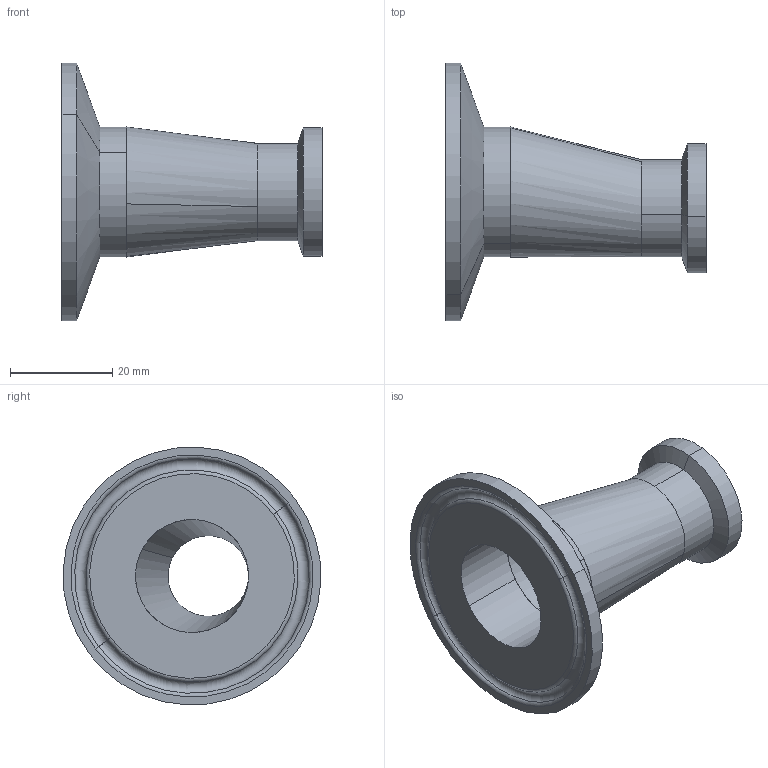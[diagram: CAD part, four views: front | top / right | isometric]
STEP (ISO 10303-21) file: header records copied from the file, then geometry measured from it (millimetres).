
FILE_DESCRIPTION (( 'STEP AP203' ), '1' );
FILE_NAME ('EG32CC1.0X.75.STEP', '2021-10-05T18:34:04', ( '' ), ( '' ), 'SwSTEP 2.0', 'SolidWorks 2021', '' );
FILE_SCHEMA (( 'CONFIG_CONTROL_DESIGN' ));
Length unit declared in the file: inch
Products named in the file (4): EG32CC1.0X.75; EG2CS1.0; E32WW1.0X.75; EG2CS.75
Assembly tree (3 placements, depth 2):
  EG32CC1.0X.75
    E32WW1.0X.75
    EG2CS1.0
    EG2CS.75
Bounding box: 50.8 x 50.33 x 50.33 mm (x, y, z)
Volume: 12932.1 mm3; surface area: 10876 mm2
Topology: 3 solids, 3 shells, 40 faces, 80 edges, 48 vertices
Faces by surface type: cylinder 14, plane 8, torus 8, cone 6, bspline 4
Entity records: 1994 total; most frequent: CARTESIAN_POINT 702, DIRECTION 216, ORIENTED_EDGE 160, AXIS2_PLACEMENT_3D 98, EDGE_CURVE 80, CIRCLE 56, VERTEX_POINT 48, EDGE_LOOP 48
